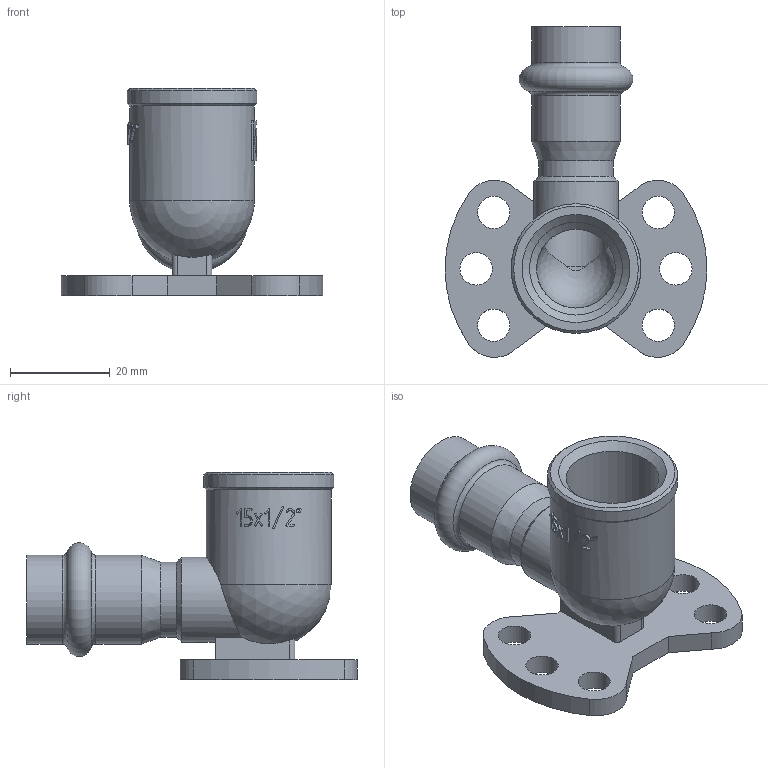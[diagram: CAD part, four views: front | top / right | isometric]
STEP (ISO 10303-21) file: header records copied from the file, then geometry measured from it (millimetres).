
FILE_DESCRIPTION(('STEP AP203'), '1');
FILE_NAME('VTi.954.I.001504', '', ('UNSPECIFIED'), ('UNSPECIFIED'), 'C3D Converter', 'C3D Toolkit', '');
FILE_SCHEMA(('CONFIG_CONTROL_DESIGN'));
Length unit declared in the file: millimetre
Bounding box: 52.5 x 66.23 x 41.5 mm (x, y, z)
Volume: 16221.6 mm3; surface area: 12879 mm2
Topology: 1 solids, 1 shells, 231 faces, 639 edges, 420 vertices
Faces by surface type: extrusion 100, plane 77, cylinder 37, torus 7, cone 7, sphere 3
Full cylindrical faces by diameter (mm): 6.5 x6, 12.5 x1, 15 x1, 15.3 x2, 15.8 x1, 17 x1, 17.8 x2, 18.632 x1, 25 x1, 26 x1
Entity records: 9733 total; most frequent: CARTESIAN_POINT 4447, ORIENTED_EDGE 1214, DIRECTION 777, EDGE_CURVE 607, VERTEX_POINT 420, VECTOR 329, B_SPLINE_CURVE_WITH_KNOTS 314, EDGE_LOOP 287
